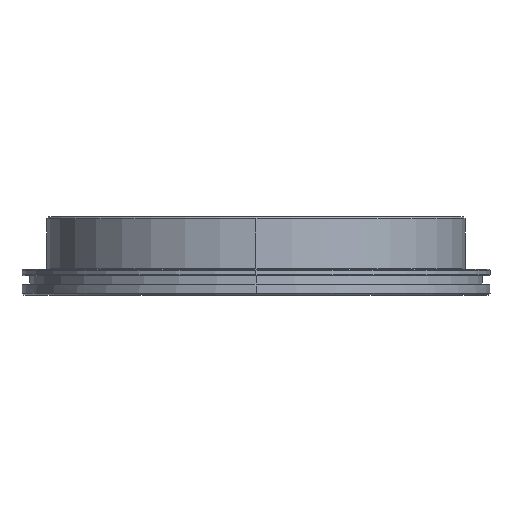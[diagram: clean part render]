
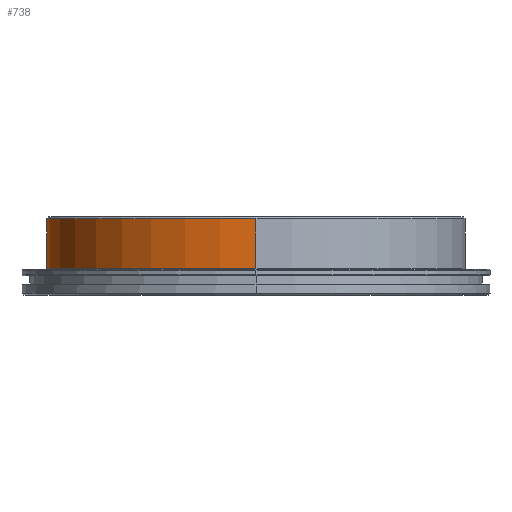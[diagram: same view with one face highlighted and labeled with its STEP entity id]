
A CAD part, left-side view. The second image highlights one B-rep face of the part: STEP entity #738.
In plain terms, the highlighted cylindrical face has radius 53.6 mm (diameter 107.2 mm), a partial arc.
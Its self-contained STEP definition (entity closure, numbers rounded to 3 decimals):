
#738=ADVANCED_FACE('NONE',(#1631),#1632,.T.);
#1631=FACE_OUTER_BOUND('',#2931,.T.);
#1632=CYLINDRICAL_SURFACE('',#2932,53.6);
#2931=EDGE_LOOP('',(#4744,#4745,#4746,#4747));
#2932=AXIS2_PLACEMENT_3D('',#4748,#4749,#4750);
#4744=ORIENTED_EDGE('',*,*,#7285,.T.);
#4745=ORIENTED_EDGE('',*,*,#7286,.T.);
#4746=ORIENTED_EDGE('',*,*,#7172,.T.);
#4747=ORIENTED_EDGE('',*,*,#7287,.F.);
#4748=CARTESIAN_POINT('',(0.0,0.0,55.0));
#4749=DIRECTION('',(0.0,0.0,-1.0));
#4750=DIRECTION('',(1.0,0.0,0.0));
#7172=EDGE_CURVE('NONE',#8503,#8501,#8504,.T.);
#7285=EDGE_CURVE('NONE',#8484,#8483,#8696,.T.);
#7286=EDGE_CURVE('NONE',#8483,#8503,#8697,.T.);
#7287=EDGE_CURVE('NONE',#8484,#8501,#8698,.T.);
#8483=VERTEX_POINT('NONE',#10410);
#8484=VERTEX_POINT('NONE',#10411);
#8501=VERTEX_POINT('NONE',#10428);
#8503=VERTEX_POINT('NONE',#10431);
#8504=CIRCLE('',#10432,53.6);
#8696=CIRCLE('',#10671,53.6);
#8697=LINE('',#10672,#10673);
#8698=LINE('',#10674,#10675);
#10410=CARTESIAN_POINT('',(-53.6,0.,1.8));
#10411=CARTESIAN_POINT('',(53.6,0.0,1.8));
#10428=CARTESIAN_POINT('',(53.6,0.0,14.6));
#10431=CARTESIAN_POINT('',(-53.6,0.,14.6));
#10432=AXIS2_PLACEMENT_3D('',#12979,#12980,#12981);
#10671=AXIS2_PLACEMENT_3D('',#13152,#13153,#13154);
#10672=CARTESIAN_POINT('',(-53.6,0.,55.0));
#10673=VECTOR('',#13155,1000.0);
#10674=CARTESIAN_POINT('',(53.6,0.0,55.0));
#10675=VECTOR('',#13156,1000.0);
#12979=CARTESIAN_POINT('',(0.0,0.0,14.6));
#12980=DIRECTION('',(0.0,0.0,-1.0));
#12981=DIRECTION('',(1.0,0.0,0.0));
#13152=CARTESIAN_POINT('',(0.0,0.0,1.8));
#13153=DIRECTION('',(0.0,0.0,1.0));
#13154=DIRECTION('',(1.0,0.0,0.0));
#13155=DIRECTION('',(0.0,0.0,1.0));
#13156=DIRECTION('',(0.0,0.0,1.0));
